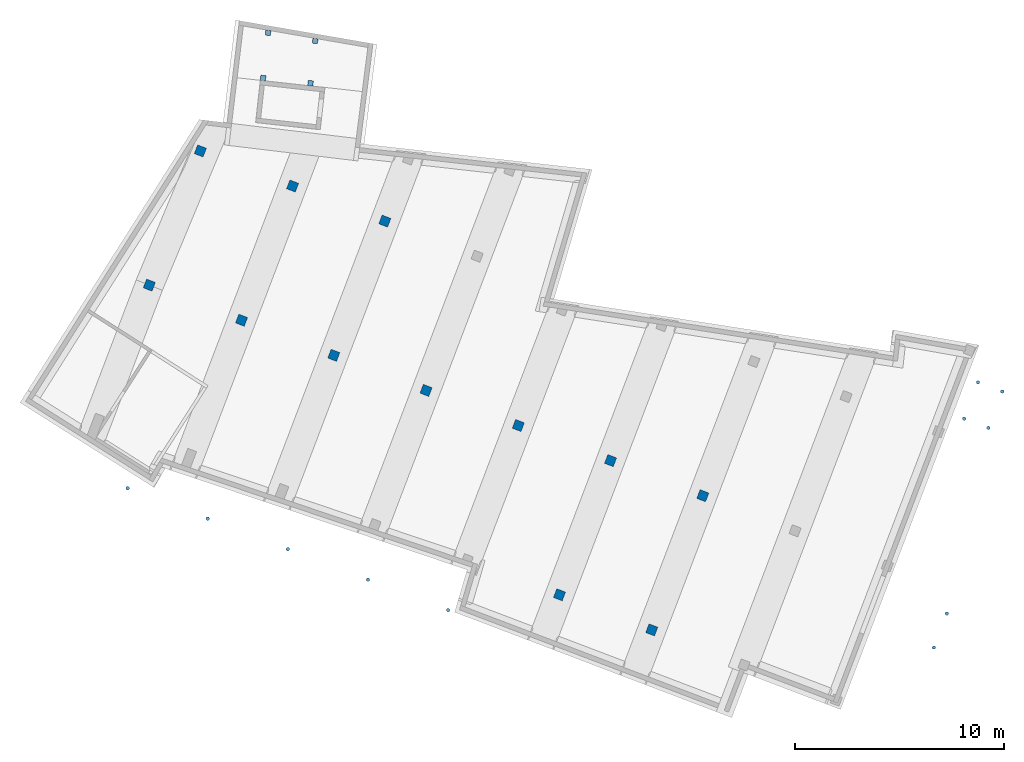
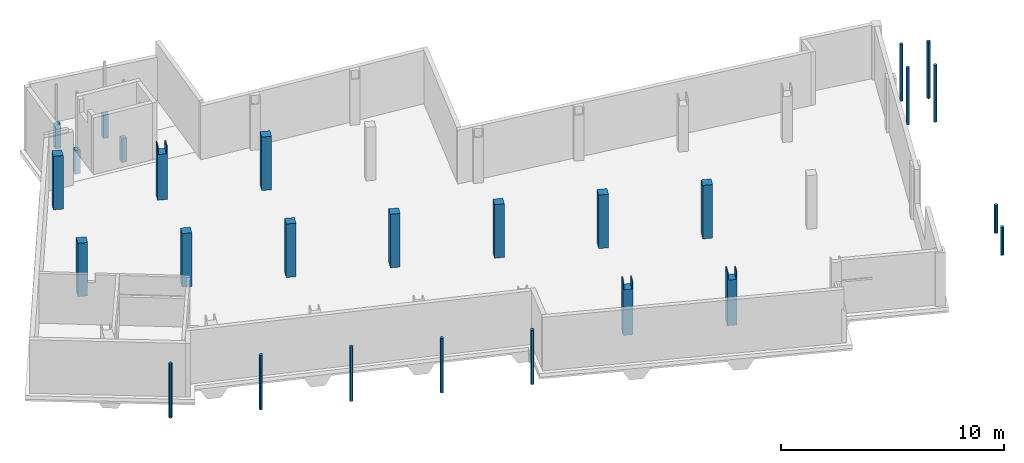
# One storey, part 1 of 11: 12 columns, 11 piles, 4 footings.
"""IFC2X3 building model written with IfcOpenShell, lengths in millimetres."""

from ifc_helpers import new_model, entity, si_unit, converted_unit, derived_unit, direction, frame, frame_2d, origin, place, context, subcontext, project, spatial, polyline, rectangle, circle, outline, extrude, source, transform, mapped, material, type_object, type_shapes, element, save


model = new_model("IFC2X3")

# Units and contexts
model_context = context("Model", 3, precision=0.01, world=origin(), true_north=direction((6.123233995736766e-17, 1.0)))
body_context = subcontext(model_context, "Body", "Model", "MODEL_VIEW")
ifc_project = project(units=[si_unit("LENGTHUNIT", "METRE", prefix="MILLI"), converted_unit("PLANEANGLEUNIT", "DEGREE", entity("IfcPlaneAngleMeasure", 0.017453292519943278), si_unit("PLANEANGLEUNIT", "RADIAN"), dimensions=[0, 0, 0, 0, 0, 0, 0]), si_unit("AREAUNIT", "SQUARE_METRE"), derived_unit("THERMALTRANSMITTANCEUNIT", [(si_unit("MASSUNIT", "GRAM", prefix="KILO"), 1), (si_unit("THERMODYNAMICTEMPERATUREUNIT", "KELVIN"), -1), (si_unit("TIMEUNIT", "SECOND"), -3)])], contexts=[model_context])

# Site, building, storey
site_placement = place(None, frame((-72937.88054949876, 11621.45624098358, 0.0), z_axis=(0.0, 0.0, 1.0), x_axis=(0.9346418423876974, -0.35559053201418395, 0.0)))
site = spatial("IfcSite", under=ifc_project, at=site_placement, Name="Default", CompositionType="ELEMENT")
building_placement = place(site_placement, origin())
building = spatial("IfcBuilding", under=site, at=building_placement, CompositionType="ELEMENT")
storey_placement = place(building_placement, frame((0.0, 0.0, -3160.0)))
storey = spatial("IfcBuildingStorey", under=building, at=storey_placement, Name="-1 kelder", CompositionType="ELEMENT", Elevation=-3160.0)

# Footings
ifc_material_1 = material(Name="beton_gewapend_ihw_c30/37")
type_product_1 = type_object("IfcTypeProduct", Name="500x500x500mm", material=ifc_material_1)
shared_shape_1 = source(origin(), body_context, "Body", "SweptSolid", [
    extrude(rectangle(XDim=249.99999999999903, YDim=250.00000000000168, at=frame_2d((1.5916157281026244e-12, 1.8260948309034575e-12), x_axis=(1.0, 0.0))), frame((18780.53461808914, 33670.74404984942, 0.0), z_axis=(0.0, 0.0, 1.0), x_axis=(0.9679826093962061, 0.25101726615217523, 0.0)), (0.0, 0.0, 1.0), 1299.9999999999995),
])
type_shapes(type_product_1, [shared_shape_1])
footing_1_placement = place(storey_placement, frame((0.0, 0.0, -1300.0)))
element("IfcFooting", 1, at=footing_1_placement, inside=storey, type_object=type_product_1, material=ifc_material_1, Name="16.11_Opstort", ObjectType="betonnen opstort, 500x500x500mm", PredefinedType="USERDEFINED", context=body_context, shape_type="MappedRepresentation", body=[
    mapped(shared_shape_1, transform((0.0, 0.0, 0.0), scale=1.0)),
])
type_product_2 = type_object("IfcTypeProduct", Name="500x500x500mm", material=ifc_material_1)
shared_shape_2 = source(origin(), body_context, "Body", "SweptSolid", [
    extrude(rectangle(XDim=250.0000000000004, YDim=249.9999999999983, at=frame_2d((-1.0444978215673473e-12, 2.7000623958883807e-13), x_axis=(1.0, 0.0))), frame((16568.69416125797, 33097.16952857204, 0.0), z_axis=(0.0, 0.0, 1.0), x_axis=(0.967982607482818, 0.2510172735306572, 0.0)), (0.0, 0.0, 1.0), 1299.9999999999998),
])
type_shapes(type_product_2, [shared_shape_2])
footing_2_placement = place(storey_placement, frame((0.0, 0.0, -1300.0)))
element("IfcFooting", 2, at=footing_2_placement, inside=storey, type_object=type_product_2, material=ifc_material_1, Name="16.11_Opstort", ObjectType="betonnen opstort, 500x500x500mm", PredefinedType="USERDEFINED", context=body_context, shape_type="MappedRepresentation", body=[
    mapped(shared_shape_2, transform((0.0, 0.0, 0.0), scale=1.0)),
])
type_product_3 = type_object("IfcTypeProduct", Name="500x500x500mm", material=ifc_material_1)
shared_shape_3 = source(origin(), body_context, "Body", "SweptSolid", [
    extrude(outline(polyline([(-125.0, -121.18363869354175), (125.0, -121.18363869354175), (125.0, 113.5509160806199), (-125.0, 128.81636130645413), (-125.0, -121.18363869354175)])), frame((18269.231866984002, 35642.46368366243, 0.0), z_axis=(0.0, 0.0, 1.0), x_axis=(0.9679826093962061, 0.25101726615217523, 0.0)), (0.0, 0.0, 1.0), 1300.0),
])
type_shapes(type_product_3, [shared_shape_3])
footing_3_placement = place(storey_placement, frame((0.0, 0.0, -1300.0)))
element("IfcFooting", 3, at=footing_3_placement, inside=storey, type_object=type_product_3, material=ifc_material_1, Name="16.11_Opstort", ObjectType="betonnen opstort, 500x500x500mm", PredefinedType="USERDEFINED", context=body_context, shape_type="MappedRepresentation", body=[
    mapped(shared_shape_3, transform((0.0, 0.0, 0.0), scale=1.0)),
])
type_product_4 = type_object("IfcTypeProduct", Name="500x500x500mm", material=ifc_material_1)
shared_shape_4 = source(origin(), body_context, "Body", "SweptSolid", [
    extrude(outline(polyline([(-101.28256584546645, -147.02522633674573), (148.71743415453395, -147.02522633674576), (148.71743415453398, 88.10090534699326), (-94.86973661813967, 102.9747736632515), (-101.28256584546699, 102.97477366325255), (-101.28256584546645, -147.02522633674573)])), frame((15993.018010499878, 35222.62910279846, 0.0), z_axis=(0.0, 0.0, 1.0), x_axis=(0.967982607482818, 0.2510172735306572, 0.0)), (0.0, 0.0, 1.0), 1299.9999999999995),
])
type_shapes(type_product_4, [shared_shape_4])
footing_4_placement = place(storey_placement, frame((0.0, 0.0, -1300.0)))
element("IfcFooting", 4, at=footing_4_placement, inside=storey, type_object=type_product_4, material=ifc_material_1, Name="16.11_Opstort", ObjectType="betonnen opstort, 500x500x500mm", PredefinedType="USERDEFINED", context=body_context, shape_type="MappedRepresentation", body=[
    mapped(shared_shape_4, transform((0.0, 0.0, 0.0), scale=1.0)),
])

# Piles
type_product_5 = type_object("IfcTypeProduct", Name="Type 01", material=ifc_material_1)
shared_shape_5 = source(origin(), body_context, "Body", "SweptSolid", [
    extrude(circle(Radius=84.0, at=frame_2d((2.0434702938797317e-18, -3.781784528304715e-13), x_axis=(1.0, 0.0))), frame((-7.800048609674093e-07, 0.0, -3660.0), z_axis=(0.0, 0.0, 1.0), x_axis=(-1.0, 0.0, 0.0)), (0.0, 0.0, 1.0), 1539.9999999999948),
])
type_shapes(type_product_5, [shared_shape_5])
pile_1_placement = place(storey_placement, frame((56320.0, 19020.0, 3160.0)))
element("IfcPile", 5, at=pile_1_placement, inside=storey, type_object=type_product_5, material=ifc_material_1, Name="17.21_Stalen buispaal", ObjectType="stalen buispaal", PredefinedType="NOTDEFINED", context=body_context, shape_type="MappedRepresentation", body=[
    mapped(shared_shape_5, transform((0.0, 0.0, 0.0), scale=1.0)),
])
type_product_6 = type_object("IfcTypeProduct", Name="Type 01", material=ifc_material_1)
shared_shape_6 = source(origin(), body_context, "Body", "SweptSolid", [
    extrude(circle(Radius=84.0, at=frame_2d((2.0434702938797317e-18, -3.781784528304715e-13), x_axis=(1.0, 0.0))), frame((-7.800048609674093e-07, 0.0, -3660.0), z_axis=(0.0, 0.0, 1.0), x_axis=(-1.0, 0.0, 0.0)), (0.0, 0.0, 1.0), 1539.9999999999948),
])
type_shapes(type_product_6, [shared_shape_6])
pile_2_placement = place(storey_placement, frame((56320.0, 20760.0, 3160.0)))
element("IfcPile", 6, at=pile_2_placement, inside=storey, type_object=type_product_6, material=ifc_material_1, Name="17.21_Stalen buispaal", ObjectType="stalen buispaal", PredefinedType="NOTDEFINED", context=body_context, shape_type="MappedRepresentation", body=[
    mapped(shared_shape_6, transform((0.0, 0.0, 0.0), scale=1.0)),
])
type_product_7 = type_object("IfcTypeProduct", Name="Type 01", material=ifc_material_1)
shared_shape_7 = source(origin(), body_context, "Body", "SweptSolid", [
    extrude(circle(Radius=84.0, at=frame_2d((2.043722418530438e-18, -3.781784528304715e-13), x_axis=(1.0, 0.0))), frame((-1.5000048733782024e-06, 0.0, -3660.0), z_axis=(0.0, 0.0, 1.0), x_axis=(-1.0, 0.0, 0.0)), (0.0, 0.0, 1.0), 2979.9999999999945),
])
type_shapes(type_product_7, [shared_shape_7])
for number, where, name in (
    (7, (33920.0, 12416.390841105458, 3160.0), "17.21_Stalen buispaal"),
    (8, (17488.01922304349, 12416.390841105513, 3160.0), "17.21_Stalen buispaal"),
):
    element("IfcPile", number, at=place(storey_placement, frame(where)), inside=storey, type_object=type_product_7, material=ifc_material_1, Name=name, ObjectType="stalen buispaal", PredefinedType="NOTDEFINED", context=body_context, shape_type="MappedRepresentation", body=[
        mapped(shared_shape_7, transform((0.0, 0.0, 0.0), scale=1.0)),
    ])
type_product_8 = type_object("IfcTypeProduct", Name="Type 01", material=ifc_material_1)
shared_shape_8 = source(origin(), body_context, "Body", "SweptSolid", [
    extrude(circle(Radius=84.0, at=frame_2d((2.043722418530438e-18, -3.781784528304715e-13), x_axis=(1.0, 0.0))), frame((-1.5000048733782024e-06, 0.0, -3660.0), z_axis=(0.0, 0.0, 1.0), x_axis=(-1.0, 0.0, 0.0)), (0.0, 0.0, 1.0), 2979.9999999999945),
])
type_shapes(type_product_8, [shared_shape_8])
pile_3_placement = place(storey_placement, frame((21596.01441728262, 12416.390841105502, 3160.0)))
element("IfcPile", 9, at=pile_3_placement, inside=storey, type_object=type_product_8, material=ifc_material_1, Name="17.21_Stalen buispaal", ObjectType="stalen buispaal", PredefinedType="NOTDEFINED", context=body_context, shape_type="MappedRepresentation", body=[
    mapped(shared_shape_8, transform((0.0, 0.0, 0.0), scale=1.0)),
])
type_product_9 = type_object("IfcTypeProduct", Name="Type 01", material=ifc_material_1)
shared_shape_9 = source(origin(), body_context, "Body", "SweptSolid", [
    extrude(circle(Radius=84.0, at=frame_2d((2.043722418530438e-18, -3.781784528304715e-13), x_axis=(1.0, 0.0))), frame((-1.5000048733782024e-06, 0.0, -3660.0), z_axis=(0.0, 0.0, 1.0), x_axis=(-1.0, 0.0, 0.0)), (0.0, 0.0, 1.0), 2979.9999999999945),
])
type_shapes(type_product_9, [shared_shape_9])
pile_4_placement = place(storey_placement, frame((25704.009611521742, 12416.39084110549, 3160.0)))
element("IfcPile", 10, at=pile_4_placement, inside=storey, type_object=type_product_9, material=ifc_material_1, Name="17.21_Stalen buispaal", ObjectType="stalen buispaal", PredefinedType="NOTDEFINED", context=body_context, shape_type="MappedRepresentation", body=[
    mapped(shared_shape_9, transform((0.0, 0.0, 0.0), scale=1.0)),
])
type_product_10 = type_object("IfcTypeProduct", Name="Type 01", material=ifc_material_1)
shared_shape_10 = source(origin(), body_context, "Body", "SweptSolid", [
    extrude(circle(Radius=84.0, at=frame_2d((2.043722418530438e-18, -3.781784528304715e-13), x_axis=(1.0, 0.0))), frame((-1.5000048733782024e-06, 0.0, -3660.0), z_axis=(0.0, 0.0, 1.0), x_axis=(-1.0, 0.0, 0.0)), (0.0, 0.0, 1.0), 2979.9999999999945),
])
type_shapes(type_product_10, [shared_shape_10])
pile_5_placement = place(storey_placement, frame((29812.00480576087, 12416.39084110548, 3160.0)))
element("IfcPile", 11, at=pile_5_placement, inside=storey, type_object=type_product_10, material=ifc_material_1, Name="17.21_Stalen buispaal", ObjectType="stalen buispaal", PredefinedType="NOTDEFINED", context=body_context, shape_type="MappedRepresentation", body=[
    mapped(shared_shape_10, transform((0.0, 0.0, 0.0), scale=1.0)),
])
type_product_11 = type_object("IfcTypeProduct", Name="Type 01", material=ifc_material_1)
shared_shape_11 = source(origin(), body_context, "Body", "SweptSolid", [
    extrude(circle(Radius=84.0, at=frame_2d((2.043722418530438e-18, -3.781784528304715e-13), x_axis=(1.0, 0.0))), frame((-1.5650048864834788e-06, 0.0, -3660.0), z_axis=(0.0, 0.0, 1.0), x_axis=(-1.0, 0.0, 0.0)), (0.0, 0.0, 1.0), 3109.999999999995),
])
type_shapes(type_product_11, [shared_shape_11])
for number, where, name in (
    (12, (55017.0, 31647.0, 3160.0), "17.21_Stalen buispaal"),
    (13, (55017.0, 29783.0, 3160.0), "17.21_Stalen buispaal"),
    (14, (53774.00000100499, 31647.0, 3160.0), "17.21_Stalen buispaal"),
):
    element("IfcPile", number, at=place(storey_placement, frame(where)), inside=storey, type_object=type_product_11, material=ifc_material_1, Name=name, ObjectType="stalen buispaal", PredefinedType="NOTDEFINED", context=body_context, shape_type="MappedRepresentation", body=[
        mapped(shared_shape_11, transform((0.0, 0.0, 0.0), scale=1.0)),
    ])
type_product_12 = type_object("IfcTypeProduct", Name="Type 01", material=ifc_material_1)
shared_shape_12 = source(origin(), body_context, "Body", "SweptSolid", [
    extrude(circle(Radius=84.0, at=frame_2d((2.043722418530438e-18, -3.781784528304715e-13), x_axis=(1.0, 0.0))), frame((-1.5650048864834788e-06, 0.0, -3660.0), z_axis=(0.0, 0.0, 1.0), x_axis=(-1.0, 0.0, 0.0)), (0.0, 0.0, 1.0), 3109.999999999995),
])
type_shapes(type_product_12, [shared_shape_12])
pile_6_placement = place(storey_placement, frame((53774.00000100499, 29783.0, 3160.0)))
element("IfcPile", 15, at=pile_6_placement, inside=storey, type_object=type_product_12, material=ifc_material_1, Name="17.21_Stalen buispaal", ObjectType="stalen buispaal", PredefinedType="NOTDEFINED", context=body_context, shape_type="MappedRepresentation", body=[
    mapped(shared_shape_12, transform((0.0, 0.0, 0.0), scale=1.0)),
])

# Columns
ifc_material_2 = material(Name="beton_gewapend_ihw")
column_type_1 = type_object("IfcColumnType", Name="450x450mm", PredefinedType="COLUMN", material=ifc_material_2)
shared_shape_13 = source(origin(), body_context, "Body", "SweptSolid", [
    extrude(rectangle(XDim=2930.0, YDim=450.00000000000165, at=frame_2d((1.1368683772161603e-13, 0.0), x_axis=(1.0, 0.0))), frame((33695.0, 21880.0, -1695.0), z_axis=(1.0, 0.0, 0.0), x_axis=(0.0, 0.0, 1.0)), (0.0, 0.0, 1.0), 450.00000000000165),
])
type_shapes(column_type_1, [shared_shape_13])
column_1_placement = place(storey_placement, frame((0.0, 0.0, 3160.0)))
element("IfcColumn", 16, at=column_1_placement, inside=storey, type_object=column_type_1, material=ifc_material_2, Name="28.11_SCO_BetonKolomRechthoek:450x450mm", ObjectType="28.11_SCO_BetonKolomRechthoek:450x450mm", context=body_context, shape_type="MappedRepresentation", body=[
    mapped(shared_shape_13, transform((0.0, 0.0, 0.0), scale=1.0)),
])
column_type_2 = type_object("IfcColumnType", Name="450x450mm", PredefinedType="COLUMN", material=ifc_material_2)
shared_shape_14 = source(origin(), body_context, "Body", "SweptSolid", [
    extrude(rectangle(XDim=2930.0, YDim=450.00000000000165, at=frame_2d((1.1368683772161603e-13, 0.0), x_axis=(1.0, 0.0))), frame((28965.0, 21880.0, -1695.0), z_axis=(1.0, 0.0, 0.0), x_axis=(0.0, 0.0, 1.0)), (0.0, 0.0, 1.0), 450.00000000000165),
])
type_shapes(column_type_2, [shared_shape_14])
column_2_placement = place(storey_placement, frame((0.0, 0.0, 3160.0)))
element("IfcColumn", 17, at=column_2_placement, inside=storey, type_object=column_type_2, material=ifc_material_2, Name="28.11_SCO_BetonKolomRechthoek:450x450mm", ObjectType="28.11_SCO_BetonKolomRechthoek:450x450mm", context=body_context, shape_type="MappedRepresentation", body=[
    mapped(shared_shape_14, transform((0.0, 0.0, 0.0), scale=1.0)),
])
column_type_3 = type_object("IfcColumnType", Name="450x450mm", PredefinedType="COLUMN", material=ifc_material_2)
shared_shape_15 = source(origin(), body_context, "Body", "SweptSolid", [
    extrude(rectangle(XDim=2930.0, YDim=450.00000000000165, at=frame_2d((1.1368683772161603e-13, 0.0), x_axis=(1.0, 0.0))), frame((24235.0, 21880.0, -1695.0), z_axis=(1.0, 0.0, 0.0), x_axis=(0.0, 0.0, 1.0)), (0.0, 0.0, 1.0), 450.00000000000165),
])
type_shapes(column_type_3, [shared_shape_15])
column_3_placement = place(storey_placement, frame((0.0, 0.0, 3160.0)))
element("IfcColumn", 18, at=column_3_placement, inside=storey, type_object=column_type_3, material=ifc_material_2, Name="28.11_SCO_BetonKolomRechthoek:450x450mm", ObjectType="28.11_SCO_BetonKolomRechthoek:450x450mm", context=body_context, shape_type="MappedRepresentation", body=[
    mapped(shared_shape_15, transform((0.0, 0.0, 0.0), scale=1.0)),
])
column_type_4 = type_object("IfcColumnType", Name="450x450mm", PredefinedType="COLUMN", material=ifc_material_2)
shared_shape_16 = source(origin(), body_context, "Body", "SweptSolid", [
    extrude(rectangle(XDim=2930.0, YDim=450.00000000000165, at=frame_2d((1.1368683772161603e-13, 0.0), x_axis=(1.0, 0.0))), frame((19505.0, 21880.0, -1695.0), z_axis=(1.0, 0.0, 0.0), x_axis=(0.0, 0.0, 1.0)), (0.0, 0.0, 1.0), 450.00000000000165),
])
type_shapes(column_type_4, [shared_shape_16])
column_4_placement = place(storey_placement, frame((0.0, 0.0, 3160.0)))
element("IfcColumn", 19, at=column_4_placement, inside=storey, type_object=column_type_4, material=ifc_material_2, Name="28.11_SCO_BetonKolomRechthoek:450x450mm", ObjectType="28.11_SCO_BetonKolomRechthoek:450x450mm", context=body_context, shape_type="MappedRepresentation", body=[
    mapped(shared_shape_16, transform((0.0, 0.0, 0.0), scale=1.0)),
])
column_type_5 = type_object("IfcColumnType", Name="450x450mm", PredefinedType="COLUMN", material=ifc_material_2)
shared_shape_17 = source(origin(), body_context, "Body", "SweptSolid", [
    extrude(rectangle(XDim=2930.0, YDim=450.00000000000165, at=frame_2d((1.1368683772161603e-13, 0.0), x_axis=(1.0, 0.0))), frame((14775.0, 21880.0, -1695.0), z_axis=(1.0, 0.0, 0.0), x_axis=(0.0, 0.0, 1.0)), (0.0, 0.0, 1.0), 450.00000000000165),
])
type_shapes(column_type_5, [shared_shape_17])
column_5_placement = place(storey_placement, frame((0.0, 0.0, 3160.0)))
element("IfcColumn", 20, at=column_5_placement, inside=storey, type_object=column_type_5, material=ifc_material_2, Name="28.11_SCO_BetonKolomRechthoek:450x450mm", ObjectType="28.11_SCO_BetonKolomRechthoek:450x450mm", context=body_context, shape_type="MappedRepresentation", body=[
    mapped(shared_shape_17, transform((0.0, 0.0, 0.0), scale=1.0)),
])
column_type_6 = type_object("IfcColumnType", Name="450x450mm", PredefinedType="COLUMN", material=ifc_material_2)
shared_shape_18 = source(origin(), body_context, "Body", "SweptSolid", [
    extrude(rectangle(XDim=2930.0, YDim=450.00000000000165, at=frame_2d((1.1368683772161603e-13, 0.0), x_axis=(1.0, 0.0))), frame((38425.0, 21880.0, -1695.0), z_axis=(1.0, 0.0, 0.0), x_axis=(0.0, 0.0, 1.0)), (0.0, 0.0, 1.0), 450.00000000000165),
])
type_shapes(column_type_6, [shared_shape_18])
column_6_placement = place(storey_placement, frame((0.0, 0.0, 3160.0)))
element("IfcColumn", 21, at=column_6_placement, inside=storey, type_object=column_type_6, material=ifc_material_2, Name="28.11_SCO_BetonKolomRechthoek:450x450mm", ObjectType="28.11_SCO_BetonKolomRechthoek:450x450mm", context=body_context, shape_type="MappedRepresentation", body=[
    mapped(shared_shape_18, transform((0.0, 0.0, 0.0), scale=1.0)),
])
column_type_7 = type_object("IfcColumnType", Name="450x450mm", PredefinedType="COLUMN", material=ifc_material_2)
shared_shape_19 = source(origin(), body_context, "Body", "SweptSolid", [
    extrude(rectangle(XDim=2930.0, YDim=450.00000000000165, at=frame_2d((1.1368683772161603e-13, 0.0), x_axis=(1.0, 0.0))), frame((43155.0, 21880.0, -1695.0), z_axis=(1.0, 0.0, 0.0), x_axis=(0.0, 0.0, 1.0)), (0.0, 0.0, 1.0), 450.00000000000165),
])
type_shapes(column_type_7, [shared_shape_19])
column_7_placement = place(storey_placement, frame((0.0, 0.0, 3160.0)))
element("IfcColumn", 22, at=column_7_placement, inside=storey, type_object=column_type_7, material=ifc_material_2, Name="28.11_SCO_BetonKolomRechthoek:450x450mm", ObjectType="28.11_SCO_BetonKolomRechthoek:450x450mm", context=body_context, shape_type="MappedRepresentation", body=[
    mapped(shared_shape_19, transform((0.0, 0.0, 0.0), scale=1.0)),
])
column_type_8 = type_object("IfcColumnType", Name="450x450mm", PredefinedType="COLUMN", material=ifc_material_2)
shared_shape_20 = source(origin(), body_context, "Body", "SweptSolid", [
    extrude(outline(polyline([(-2090.0, -225.0), (840.0, -225.0), (840.0, -175.0), (410.0, -175.0), (410.0, 175.0), (840.0, 175.0), (840.0, 225.0), (-2090.0, 225.0), (-2090.0, -225.0)])), frame((43380.0, 14775.0, -1070.0), z_axis=(0.0, 1.0, 0.0), x_axis=(0.0, 0.0, 1.0)), (0.0, 0.0, 1.0), 450.00000000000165),
])
type_shapes(column_type_8, [shared_shape_20])
column_8_placement = place(storey_placement, frame((0.0, 0.0, 3160.0)))
element("IfcColumn", 23, at=column_8_placement, inside=storey, type_object=column_type_8, material=ifc_material_2, Name="28.11_SCO_BetonKolomRechthoek:450x450mm", ObjectType="28.11_SCO_BetonKolomRechthoek:450x450mm", context=body_context, shape_type="MappedRepresentation", body=[
    mapped(shared_shape_20, transform((0.0, 0.0, 0.0), scale=1.0)),
])
column_type_9 = type_object("IfcColumnType", Name="450x450mm", PredefinedType="COLUMN", material=ifc_material_2)
shared_shape_21 = source(origin(), body_context, "Body", "SweptSolid", [
    extrude(outline(polyline([(-2090.0, -225.0), (840.0, -225.0), (840.0, -175.0), (410.0, -175.0), (410.0, 175.0), (840.0, 175.0), (840.0, 225.0), (-2090.0, 225.0), (-2090.0, -225.0)])), frame((38650.0, 14775.0, -1070.0), z_axis=(0.0, 1.0, 0.0), x_axis=(0.0, 0.0, 1.0)), (0.0, 0.0, 1.0), 450.00000000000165),
])
type_shapes(column_type_9, [shared_shape_21])
column_9_placement = place(storey_placement, frame((0.0, 0.0, 3160.0)))
element("IfcColumn", 24, at=column_9_placement, inside=storey, type_object=column_type_9, material=ifc_material_2, Name="28.11_SCO_BetonKolomRechthoek:450x450mm", ObjectType="28.11_SCO_BetonKolomRechthoek:450x450mm", context=body_context, shape_type="MappedRepresentation", body=[
    mapped(shared_shape_21, transform((0.0, 0.0, 0.0), scale=1.0)),
])
column_type_10 = type_object("IfcColumnType", Name="450x450mm", PredefinedType="COLUMN", material=ifc_material_2)
shared_shape_22 = source(origin(), body_context, "Body", "SweptSolid", [
    extrude(rectangle(XDim=2930.0, YDim=450.00000000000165, at=frame_2d((1.1368683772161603e-13, 0.0), x_axis=(1.0, 0.0))), frame((24235.0, 28760.0, -1695.0), z_axis=(1.0, 0.0, 0.0), x_axis=(0.0, 0.0, 1.0)), (0.0, 0.0, 1.0), 450.00000000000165),
])
type_shapes(column_type_10, [shared_shape_22])
column_10_placement = place(storey_placement, frame((0.0, 0.0, 3160.0)))
element("IfcColumn", 25, at=column_10_placement, inside=storey, type_object=column_type_10, material=ifc_material_2, Name="28.11_SCO_BetonKolomRechthoek:450x450mm", ObjectType="28.11_SCO_BetonKolomRechthoek:450x450mm", context=body_context, shape_type="MappedRepresentation", body=[
    mapped(shared_shape_22, transform((0.0, 0.0, 0.0), scale=1.0)),
])
column_type_11 = type_object("IfcColumnType", Name="450x450mm", PredefinedType="COLUMN", material=ifc_material_2)
shared_shape_23 = source(origin(), body_context, "Body", "SweptSolid", [
    extrude(outline(polyline([(-2090.0, -225.0), (840.0, -225.0), (840.0, -175.0), (410.0, -175.0), (410.0, 175.0), (840.0, 175.0), (840.0, 225.0), (-2090.0, 225.0), (-2090.0, -225.0)])), frame((19730.0, 28535.0, -1070.0), z_axis=(0.0, 1.0, 0.0), x_axis=(0.0, 0.0, 1.0)), (0.0, 0.0, 1.0), 450.00000000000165),
])
type_shapes(column_type_11, [shared_shape_23])
column_11_placement = place(storey_placement, frame((0.0, 0.0, 3160.0)))
element("IfcColumn", 26, at=column_11_placement, inside=storey, type_object=column_type_11, material=ifc_material_2, Name="28.11_SCO_BetonKolomRechthoek:450x450mm", ObjectType="28.11_SCO_BetonKolomRechthoek:450x450mm", context=body_context, shape_type="MappedRepresentation", body=[
    mapped(shared_shape_23, transform((0.0, 0.0, 0.0), scale=1.0)),
])
column_type_12 = type_object("IfcColumnType", Name="450x450mm", PredefinedType="COLUMN", material=ifc_material_2)
shared_shape_24 = source(origin(), body_context, "Body", "SweptSolid", [
    extrude(rectangle(XDim=2930.0, YDim=450.00000000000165, at=frame_2d((1.1368683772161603e-13, 0.0), x_axis=(1.0, 0.0))), frame((14775.0, 28760.0, -1695.0), z_axis=(1.0, 0.0, 0.0), x_axis=(0.0, 0.0, 1.0)), (0.0, 0.0, 1.0), 450.00000000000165),
])
type_shapes(column_type_12, [shared_shape_24])
column_12_placement = place(storey_placement, frame((0.0, 0.0, 3160.0)))
element("IfcColumn", 27, at=column_12_placement, inside=storey, type_object=column_type_12, material=ifc_material_2, Name="28.11_SCO_BetonKolomRechthoek:450x450mm", ObjectType="28.11_SCO_BetonKolomRechthoek:450x450mm", context=body_context, shape_type="MappedRepresentation", body=[
    mapped(shared_shape_24, transform((0.0, 0.0, 0.0), scale=1.0)),
])

save(model, "model.ifc")
